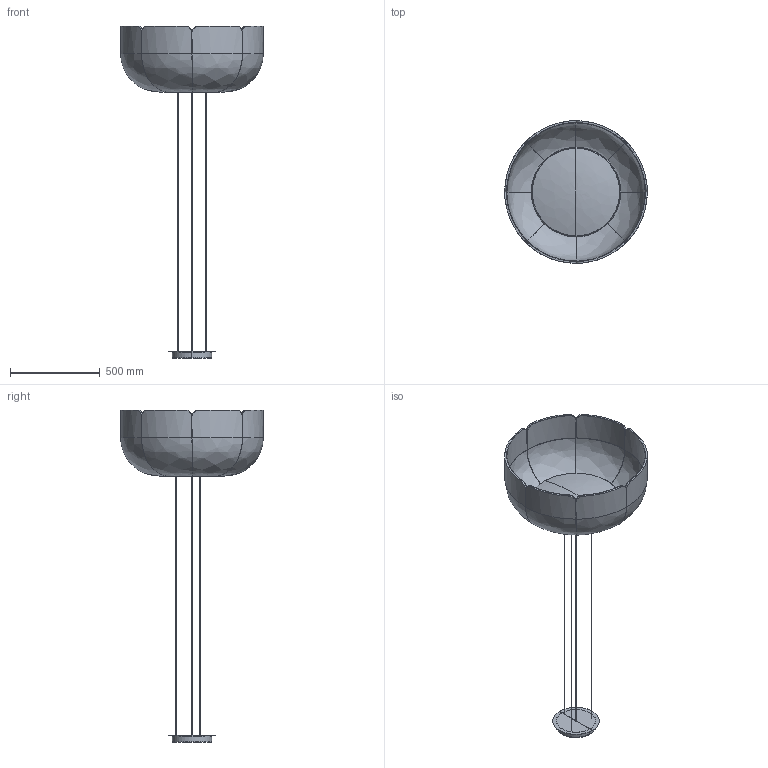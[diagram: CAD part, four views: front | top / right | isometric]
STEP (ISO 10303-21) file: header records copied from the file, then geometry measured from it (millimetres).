
FILE_DESCRIPTION(/* description */ (''),/* implementation_level */ '2;1');
FILE_NAME(/* name */ 'C:\Users\Franco Sartori E\Documents\FARO\DUPLICADO\Modelos\01_Digitalizados\0_OK\MUTE\03_Publicación\20103.stp',/* time_stamp */ '2020-08-10T11:15:30+02:00',/* author */ ('Franco Sartori E'),/* organization */ (''),/* preprocessor_version */ 'ST-DEVELOPER v18',/* originating_system */ 'AutoCAD Mechanical',/* authorisation */ '');
FILE_SCHEMA (('AUTOMOTIVE_DESIGN { 1 0 10303 214 3 1 1 }'));
Length unit declared in the file: millimetre
Products named in the file (3): Product; 2010X - MUTE-457167-_3D_; 2010X_support - MUTE-454560-_3D_
Assembly tree (2 placements, depth 2):
  Product
    2010X - MUTE-457167-_3D_
    2010X_support - MUTE-454560-_3D_
Bounding box: 794.94 x 794.95 x 1850.14 mm (x, y, z)
Volume: 14838454.4 mm3; surface area: 5915884.8 mm2
Topology: 24 solids, 24 shells, 428 faces, 1114 edges, 718 vertices
Faces by surface type: plane 192, cylinder 176, bspline 40, torus 20
Entity records: 17526 total; most frequent: CARTESIAN_POINT 7159, ORIENTED_EDGE 2220, DIRECTION 2028, EDGE_CURVE 1110, AXIS2_PLACEMENT_3D 727, VERTEX_POINT 718, LINE 574, VECTOR 574
